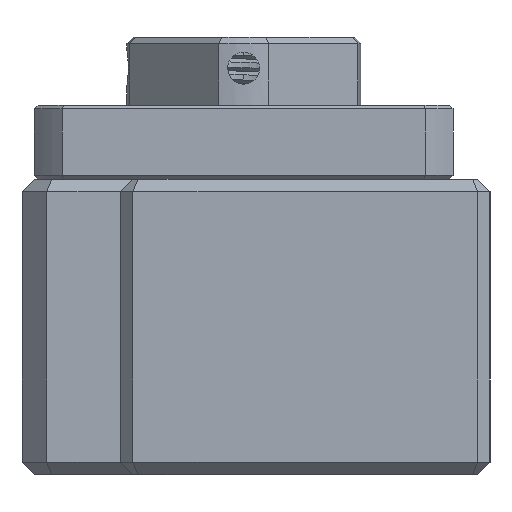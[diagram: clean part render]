
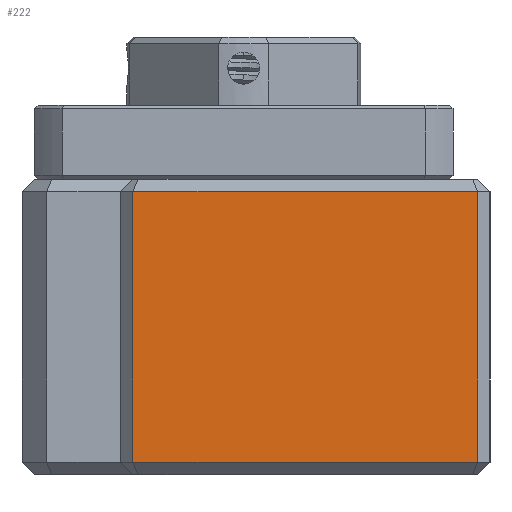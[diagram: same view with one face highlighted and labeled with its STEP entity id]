
A CAD part, left-side view. The second image highlights one B-rep face of the part: STEP entity #222.
In plain terms, the highlighted planar face has unit normal (-1, 0, 0).
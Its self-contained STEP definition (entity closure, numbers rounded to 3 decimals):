
#182 = VERTEX_POINT ( 'NONE', #3104 ) ;
#187 = ORIENTED_EDGE ( 'NONE', *, *, #198, .T. ) ;
#198 = EDGE_CURVE ( 'NONE', #182, #18471, #3194, .T. ) ;
#212 = EDGE_LOOP ( 'NONE', ( #187, #17255, #18416, #16844 ) ) ;
#222 = ADVANCED_FACE ( 'NONE', ( #3258 ), #3257, .F. ) ;
#3104 = CARTESIAN_POINT ( 'NONE',  ( 0., 29., 23. ) ) ;
#3190 = DIRECTION ( 'NONE',  ( 0., 0., -1. ) ) ;
#3191 = VECTOR ( 'NONE', #3190, 1000. ) ;
#3193 = CARTESIAN_POINT ( 'NONE',  ( 0., 29., 24. ) ) ;
#3194 = LINE ( 'NONE', #3193, #3191 ) ;
#3246 = DIRECTION ( 'NONE',  ( 0., 0., -1. ) ) ;
#3248 = DIRECTION ( 'NONE',  ( 1., 0., 0. ) ) ;
#3249 = CARTESIAN_POINT ( 'NONE',  ( 0., 0., 24. ) ) ;
#3251 = AXIS2_PLACEMENT_3D ( 'NONE', #3249, #3248, #3246 ) ;
#3257 = PLANE ( 'NONE',  #3251 ) ;
#3258 = FACE_OUTER_BOUND ( 'NONE', #212, .T. ) ;
#15897 = VERTEX_POINT ( 'NONE', #17399 ) ;
#16698 = EDGE_CURVE ( 'NONE', #15897, #182, #17457, .T. ) ;
#16844 = ORIENTED_EDGE ( 'NONE', *, *, #16698, .T. ) ;
#17255 = ORIENTED_EDGE ( 'NONE', *, *, #18420, .T. ) ;
#17399 = CARTESIAN_POINT ( 'NONE',  ( 0., 1., 23. ) ) ;
#17433 = DIRECTION ( 'NONE',  ( 0., -1., 0. ) ) ;
#17434 = VECTOR ( 'NONE', #17433, 1000. ) ;
#17435 = CARTESIAN_POINT ( 'NONE',  ( 0., 1., 1. ) ) ;
#17436 = LINE ( 'NONE', #17435, #17434 ) ;
#17437 = CARTESIAN_POINT ( 'NONE',  ( 0., 1., 1. ) ) ;
#17438 = DIRECTION ( 'NONE',  ( 0., 0., 1. ) ) ;
#17439 = VECTOR ( 'NONE', #17438, 1000. ) ;
#17440 = CARTESIAN_POINT ( 'NONE',  ( 0., 1., 24. ) ) ;
#17441 = LINE ( 'NONE', #17440, #17439 ) ;
#17454 = DIRECTION ( 'NONE',  ( 0., 1., 0. ) ) ;
#17455 = VECTOR ( 'NONE', #17454, 1000. ) ;
#17456 = CARTESIAN_POINT ( 'NONE',  ( 0., 0., 23. ) ) ;
#17457 = LINE ( 'NONE', #17456, #17455 ) ;
#17572 = CARTESIAN_POINT ( 'NONE',  ( 0., 29., 1. ) ) ;
#18416 = ORIENTED_EDGE ( 'NONE', *, *, #18417, .T. ) ;
#18417 = EDGE_CURVE ( 'NONE', #18419, #15897, #17441, .T. ) ;
#18419 = VERTEX_POINT ( 'NONE', #17437 ) ;
#18420 = EDGE_CURVE ( 'NONE', #18471, #18419, #17436, .T. ) ;
#18471 = VERTEX_POINT ( 'NONE', #17572 ) ;
